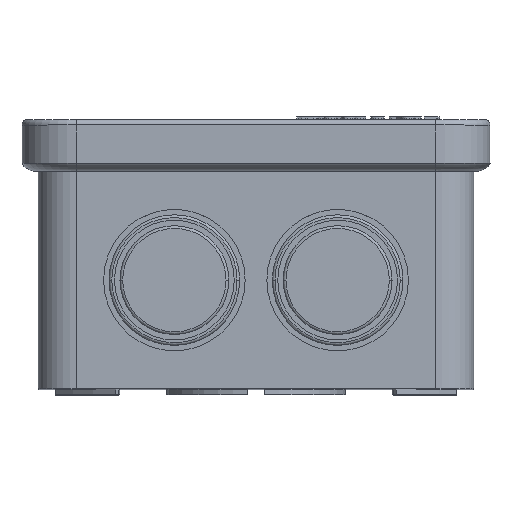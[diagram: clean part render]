
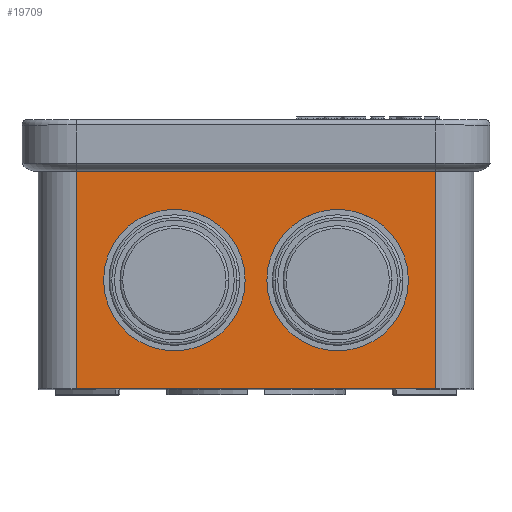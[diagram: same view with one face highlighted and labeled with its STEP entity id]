
A CAD part, top view. The second image highlights one B-rep face of the part: STEP entity #19709.
In plain terms, the highlighted planar face has unit normal (0, 0, 1).
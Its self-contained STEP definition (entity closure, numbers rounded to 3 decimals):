
#1913 = CIRCLE ( 'NONE', #1915, 13. ) ;
#1915 = AXIS2_PLACEMENT_3D ( 'NONE', #22933, #22935, #22936 ) ;
#1919 = CIRCLE ( 'NONE', #1927, 13. ) ;
#1927 = AXIS2_PLACEMENT_3D ( 'NONE', #22983, #22985, #22986 ) ;
#2021 = VECTOR ( 'NONE', #23456, 1000. ) ;
#2027 = CIRCLE ( 'NONE', #2030, 13. ) ;
#2029 = VECTOR ( 'NONE', #23438, 1000. ) ;
#2030 = AXIS2_PLACEMENT_3D ( 'NONE', #23431, #23433, #23435 ) ;
#2031 = VECTOR ( 'NONE', #23444, 1000. ) ;
#2032 = VECTOR ( 'NONE', #23450, 1000. ) ;
#2034 = CIRCLE ( 'NONE', #2036, 13. ) ;
#2036 = AXIS2_PLACEMENT_3D ( 'NONE', #23463, #23465, #23466 ) ;
#4261 = AXIS2_PLACEMENT_3D ( 'NONE', #17271, #17268, #17277 ) ;
#5065 = EDGE_LOOP ( 'NONE', ( #20063, #20064 ) ) ;
#5124 = EDGE_LOOP ( 'NONE', ( #20057, #20058 ) ) ;
#5166 = EDGE_LOOP ( 'NONE', ( #20059, #20060, #20061, #20062 ) ) ;
#10790 = CARTESIAN_POINT ( 'NONE',  ( 33., 0., 40. ) ) ;
#10873 = CARTESIAN_POINT ( 'NONE',  ( 28., 20., 40. ) ) ;
#10874 = CARTESIAN_POINT ( 'NONE',  ( 2., 20., 40. ) ) ;
#10882 = CARTESIAN_POINT ( 'NONE',  ( -28., 20., 40. ) ) ;
#10883 = CARTESIAN_POINT ( 'NONE',  ( -2., 20., 40. ) ) ;
#10944 = CARTESIAN_POINT ( 'NONE',  ( 33., 40., 40. ) ) ;
#10945 = CARTESIAN_POINT ( 'NONE',  ( -33., 0., 40. ) ) ;
#10951 = CARTESIAN_POINT ( 'NONE',  ( -33., 40., 40. ) ) ;
#17264 = FACE_OUTER_BOUND ( 'NONE', #5166, .T. ) ;
#17268 = DIRECTION ( 'NONE',  ( 0., 0., 1. ) ) ;
#17271 = CARTESIAN_POINT ( 'NONE',  ( 33., 40., 40. ) ) ;
#17272 = FACE_BOUND ( 'NONE', #5124, .T. ) ;
#17274 = FACE_BOUND ( 'NONE', #5065, .T. ) ;
#17275 = PLANE ( 'NONE',  #4261 ) ;
#17277 = DIRECTION ( 'NONE',  ( 1., 0., 0. ) ) ;
#19197 = VERTEX_POINT ( 'NONE', #10790 ) ;
#19280 = VERTEX_POINT ( 'NONE', #10873 ) ;
#19281 = VERTEX_POINT ( 'NONE', #10874 ) ;
#19289 = VERTEX_POINT ( 'NONE', #10882 ) ;
#19290 = VERTEX_POINT ( 'NONE', #10883 ) ;
#19351 = VERTEX_POINT ( 'NONE', #10944 ) ;
#19352 = VERTEX_POINT ( 'NONE', #10945 ) ;
#19358 = VERTEX_POINT ( 'NONE', #10951 ) ;
#19709 = ADVANCED_FACE ( 'NONE', ( #17272, #17264, #17274 ), #17275, .T. ) ;
#20057 = ORIENTED_EDGE ( 'NONE', *, *, #20794, .F. ) ;
#20058 = ORIENTED_EDGE ( 'NONE', *, *, #20726, .F. ) ;
#20059 = ORIENTED_EDGE ( 'NONE', *, *, #20795, .F. ) ;
#20060 = ORIENTED_EDGE ( 'NONE', *, *, #20796, .F. ) ;
#20061 = ORIENTED_EDGE ( 'NONE', *, *, #20797, .T. ) ;
#20062 = ORIENTED_EDGE ( 'NONE', *, *, #20798, .T. ) ;
#20063 = ORIENTED_EDGE ( 'NONE', *, *, #20718, .T. ) ;
#20064 = ORIENTED_EDGE ( 'NONE', *, *, #20799, .T. ) ;
#20718 = EDGE_CURVE ( 'NONE', #19280, #19281, #1913, .T. ) ;
#20726 = EDGE_CURVE ( 'NONE', #19289, #19290, #1919, .T. ) ;
#20794 = EDGE_CURVE ( 'NONE', #19290, #19289, #2027, .T. ) ;
#20795 = EDGE_CURVE ( 'NONE', #19197, #19352, #23419, .T. ) ;
#20796 = EDGE_CURVE ( 'NONE', #19351, #19197, #23439, .T. ) ;
#20797 = EDGE_CURVE ( 'NONE', #19351, #19358, #23446, .T. ) ;
#20798 = EDGE_CURVE ( 'NONE', #19358, #19352, #23429, .T. ) ;
#20799 = EDGE_CURVE ( 'NONE', #19281, #19280, #2034, .T. ) ;
#22933 = CARTESIAN_POINT ( 'NONE',  ( 15., 20., 40. ) ) ;
#22935 = DIRECTION ( 'NONE',  ( 0., 0., -1. ) ) ;
#22936 = DIRECTION ( 'NONE',  ( 1., 0., 0. ) ) ;
#22983 = CARTESIAN_POINT ( 'NONE',  ( -15., 20., 40. ) ) ;
#22985 = DIRECTION ( 'NONE',  ( 0., 0., 1. ) ) ;
#22986 = DIRECTION ( 'NONE',  ( 1., 0., 0. ) ) ;
#23419 = LINE ( 'NONE', #23421, #2029 ) ;
#23421 = CARTESIAN_POINT ( 'NONE',  ( 33., 0., 40. ) ) ;
#23429 = LINE ( 'NONE', #23452, #2021 ) ;
#23431 = CARTESIAN_POINT ( 'NONE',  ( -15., 20., 40. ) ) ;
#23433 = DIRECTION ( 'NONE',  ( 0., 0., 1. ) ) ;
#23435 = DIRECTION ( 'NONE',  ( 1., 0., 0. ) ) ;
#23438 = DIRECTION ( 'NONE',  ( -1., 0., 0. ) ) ;
#23439 = LINE ( 'NONE', #23442, #2031 ) ;
#23442 = CARTESIAN_POINT ( 'NONE',  ( 33., 40., 40. ) ) ;
#23444 = DIRECTION ( 'NONE',  ( 0., -1., 0. ) ) ;
#23446 = LINE ( 'NONE', #23448, #2032 ) ;
#23448 = CARTESIAN_POINT ( 'NONE',  ( 33., 40., 40. ) ) ;
#23450 = DIRECTION ( 'NONE',  ( -1., 0., 0. ) ) ;
#23452 = CARTESIAN_POINT ( 'NONE',  ( -33., 40., 40. ) ) ;
#23456 = DIRECTION ( 'NONE',  ( 0., -1., 0. ) ) ;
#23463 = CARTESIAN_POINT ( 'NONE',  ( 15., 20., 40. ) ) ;
#23465 = DIRECTION ( 'NONE',  ( 0., 0., -1. ) ) ;
#23466 = DIRECTION ( 'NONE',  ( 1., 0., 0. ) ) ;
